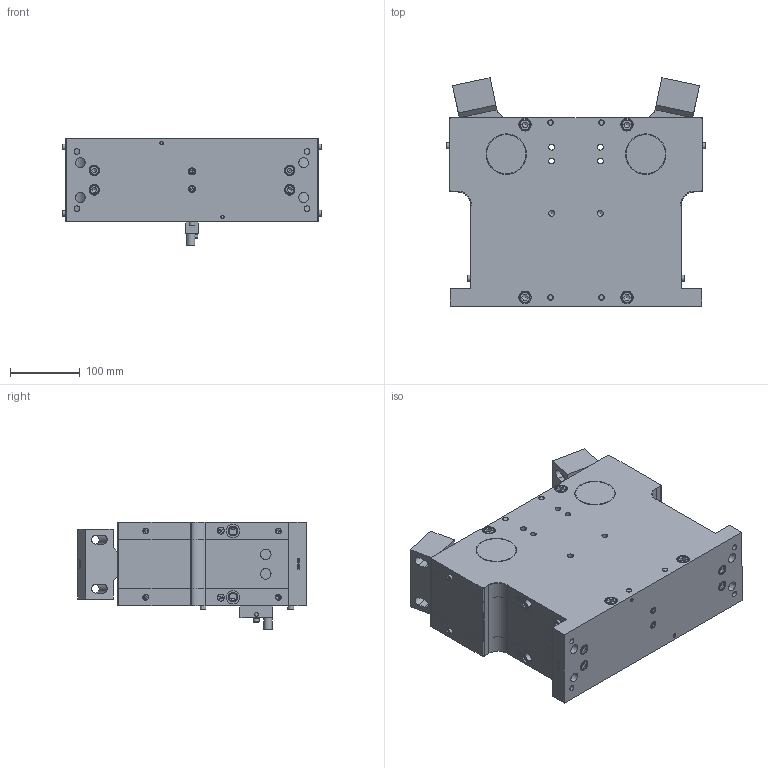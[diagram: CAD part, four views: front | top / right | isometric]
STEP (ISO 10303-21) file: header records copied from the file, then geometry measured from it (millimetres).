
FILE_DESCRIPTION((''),'2;1');
FILE_NAME('G:\Konstruktion\Versuche\HDAS\HD 100 AS\365481 - HD 100 AS - Kundenmodell.stp','2013-06-10T13:55:34',('hammer'),(''),'Autodesk Inventor 2010','Autodesk Inventor 2010','');
FILE_SCHEMA(('AUTOMOTIVE_DESIGN { 1 0 10303 214 1 1 1 1 }'));
Length unit declared in the file: millimetre
Products named in the file (1): 365481 - HD 100 AS - Kundenmodell
Bounding box: 372 x 327.55 x 154 mm (x, y, z)
Volume: 6342497.4 mm3; surface area: 863660.4 mm2
Topology: 1 solids, 1 shells, 2045 faces, 5310 edges, 3431 vertices
Faces by surface type: plane 1112, bspline 432, cylinder 340, cone 117, torus 39, sphere 5
Full cylindrical faces by diameter (mm): 1.6 x2, 1.65 x4, 2.459 x2, 3 x2, 4 x27, 4.134 x2, 5 x12, 5.3 x3, 5.5 x6, 6.1 x2, 6.647 x4, 8 x30, 8.376 x8, 8.5 x17, 9 x9, 10 x6, 10.106 x2, 11.445 x4, 12 x1, 13 x8, 14 x4, 15 x12, 16 x8, 16.6 x2, 17 x2, 17.9 x2, 18 x8, 19 x4, 25 x4, 35 x1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
Entity records: 64287 total; most frequent: CARTESIAN_POINT 17402, ORIENTED_EDGE 9518, DIRECTION 7784, EDGE_CURVE 4759, VERTEX_POINT 3264, VECTOR 2770, LINE 2770, EDGE_LOOP 2745
